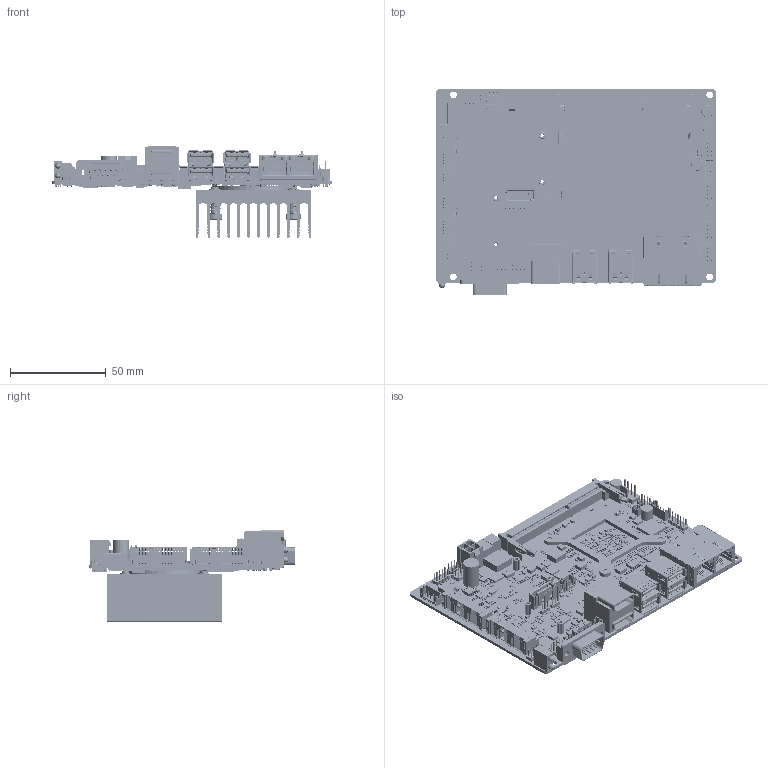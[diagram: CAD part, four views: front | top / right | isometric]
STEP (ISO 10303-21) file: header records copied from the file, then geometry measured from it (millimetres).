
FILE_DESCRIPTION((''),'2;1');
FILE_NAME('ECM-APL2_M_ASM','2022-10-27T17:32:38',('jamie_liao'),(''),'CREO PARAMETRIC BY PTC INC, 2017110','CREO PARAMETRIC BY PTC INC, 2017110','');
FILE_SCHEMA(('CONFIG_CONTROL_DESIGN','GEOMETRIC_VALIDATION_PROPERTIES_MIM'));
Products named in the file (111): ECM-APL2_M; E118X633760H; E14S4930601H; E14S4020400H; E1213008000H; E1662510201H; E16F1038031R; E14S3204300H; E14S3520900H; E1613620000R; E16D5I00301R; E1060708221H; E14S4021100H; E14S4852801H; E14S4751701H; E1653005202R; E1653004201R; E1660210201H; E1613320000R; E1613310000R; E1613520000R; E1304400003H; E1662210201H; E14S3122000H; E00A0900002; E1213009005H; E1655004006R; E1301581741H; E14S3233000H; E1113610720H; E1186610730H; E121220222EH; E1315090810H; E14S3506900H; E14S3351100H; E14S4048500H; E14S3820700H; E14S5C12500H; E14S3019800H; E1231302562H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
Assembly tree (1466 placements, depth 6):
  ECM-APL2_M_ASM
    ECM-APL2_M
    E118X633760H  x2
    E14S4930601H  x2
    E14S4020400H  x2
    E1213008000H  x8
    E1662510201H  x2
    E16F1038031R
    E14S3204300H
    E14S3520900H  x2
    E1613620000R  x2
    E16D5I00301R  x2
    E1060708221H  x6
    E14S4021100H  x2
    E14S4852801H
    E14S4751701H
    E1653005202R
    E1653004201R
    E1660210201H
    E1613320000R  x2
    E1613310000R  x3
    E1613520000R  x2
    E1304400003H
    E1662210201H  x2
    E14S3122000H
    E00A0900002
    E1213009005H  x16
    E1655004006R
    E1301581741H  x3
    E14S3233000H  x3
    E1113610720H  x3
    E1186610730H
    E121220222EH
    E1315090810H
    E14S3506900H
    E14S3351100H  x4
    E14S4048500H  x2
    E14S3820700H
    E14S5C12500H
    E14S3019800H
    E1231302562H  x2
    E0030000000  x6
    E0030100002  x3
    E0030100001  x24
    E0030100000  x11
    E1305063040H
    E1301055140R  x7
    E1213103004H  x6
    E1231332728H  x2
    E1213103000H  x3
    E1213106002H  x2
    E10187005CXH
    A-R1206  x4
    A-R0603  x43
    A-R0402  x505
    E1752511005H
    E1752500001H  x2
    E121220102GH  x2
    E1212201028H
    E1212206811H
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Bounding box: 146.05 x 108.1 x 47.98 mm (x, y, z)
Volume: 99441.4 mm3; surface area: 138154.1 mm2
Topology: 1557 solids, 1563 shells, 35574 faces, 94643 edges, 61952 vertices
Faces by surface type: plane 29379, cylinder 5424, bspline 374, cone 292, torus 67, sphere 24, extrusion 14
Entity records: 815259 total; most frequent: CARTESIAN_POINT 149618, ORIENTED_EDGE 128634, DIRECTION 120320, EDGE_CURVE 64317, VECTOR 52378, LINE 52368, VERTEX_POINT 42226, AXIS2_PLACEMENT_3D 33971
